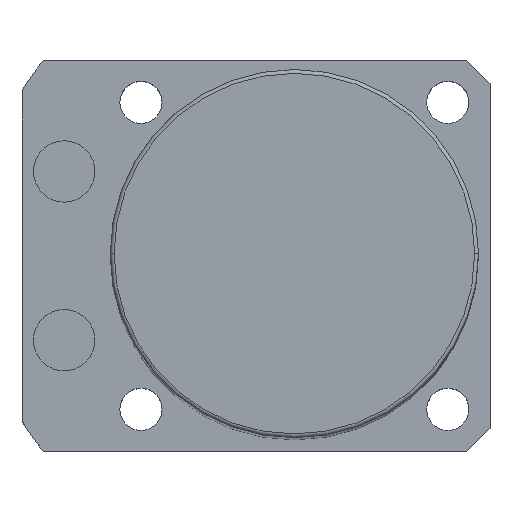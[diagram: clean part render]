
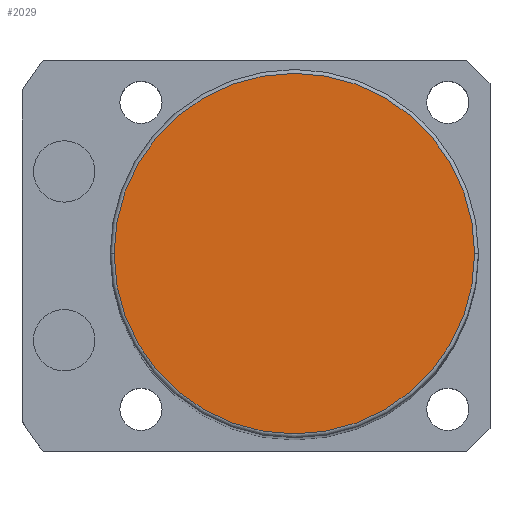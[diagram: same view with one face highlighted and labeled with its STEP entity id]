
A CAD part, top view. The second image highlights one B-rep face of the part: STEP entity #2029.
In plain terms, the highlighted planar face has unit normal (0, 0, 1).
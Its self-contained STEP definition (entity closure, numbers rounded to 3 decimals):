
#345 = ORIENTED_EDGE ( 'NONE', *, *, #2183, .T. ) ;
#440 = AXIS2_PLACEMENT_3D ( 'NONE', #3834, #2773, #3288 ) ;
#523 = EDGE_CURVE ( 'NONE', #3692, #3009, #2772, .T. ) ;
#566 = EDGE_LOOP ( 'NONE', ( #2392, #345 ) ) ;
#880 = CARTESIAN_POINT ( 'NONE',  ( -23.5, 0., 176. ) ) ;
#1221 = AXIS2_PLACEMENT_3D ( 'NONE', #5083, #2560, #6302 ) ;
#2029 = ADVANCED_FACE ( 'NONE', ( #2989 ), #6359, .T. ) ;
#2183 = EDGE_CURVE ( 'NONE', #3009, #3692, #5239, .T. ) ;
#2392 = ORIENTED_EDGE ( 'NONE', *, *, #523, .T. ) ;
#2560 = DIRECTION ( 'NONE',  ( 0., 0., 1. ) ) ;
#2754 = CARTESIAN_POINT ( 'NONE',  ( 0., 0., 176. ) ) ;
#2772 = CIRCLE ( 'NONE', #1221, 23.5 ) ;
#2773 = DIRECTION ( 'NONE',  ( 0., 0., 1. ) ) ;
#2989 = FACE_OUTER_BOUND ( 'NONE', #566, .T. ) ;
#3009 = VERTEX_POINT ( 'NONE', #880 ) ;
#3288 = DIRECTION ( 'NONE',  ( 1., 0., 0. ) ) ;
#3692 = VERTEX_POINT ( 'NONE', #5292 ) ;
#3834 = CARTESIAN_POINT ( 'NONE',  ( 0., 0., 176. ) ) ;
#4147 = AXIS2_PLACEMENT_3D ( 'NONE', #2754, #6306, #5757 ) ;
#5083 = CARTESIAN_POINT ( 'NONE',  ( 0., 0., 176. ) ) ;
#5239 = CIRCLE ( 'NONE', #4147, 23.5 ) ;
#5292 = CARTESIAN_POINT ( 'NONE',  ( 23.5, 0., 176. ) ) ;
#5757 = DIRECTION ( 'NONE',  ( 1., 0., 0. ) ) ;
#6302 = DIRECTION ( 'NONE',  ( 1., 0., 0. ) ) ;
#6306 = DIRECTION ( 'NONE',  ( 0., 0., 1. ) ) ;
#6359 = PLANE ( 'NONE',  #440 ) ;
